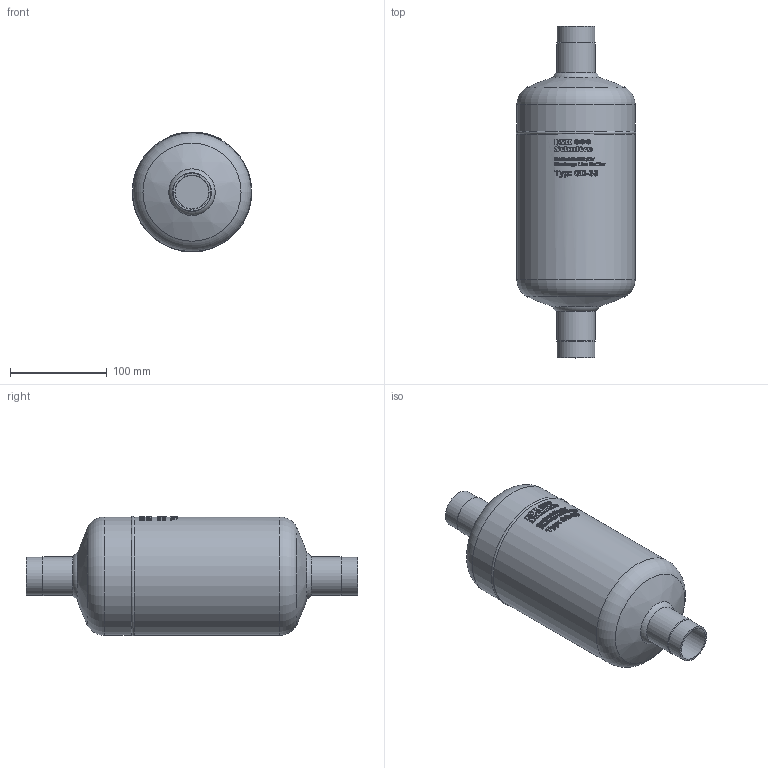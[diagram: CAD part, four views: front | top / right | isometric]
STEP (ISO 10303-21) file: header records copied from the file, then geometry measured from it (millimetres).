
FILE_DESCRIPTION(/* description */ (''),/* implementation_level */ '2;1');
FILE_NAME(/* name */ 'P:\GD\GD-35\GD-35.stp',/* time_stamp */ '2017-10-05T08:27:11+02:00',/* author */ ('neufeld'),/* organization */ (''),/* preprocessor_version */ 'ST-DEVELOPER v16.1',/* originating_system */ 'Autodesk Inventor 2016',/* authorisation */ '');
FILE_SCHEMA (('AUTOMOTIVE_DESIGN { 1 0 10303 214 3 1 1 }'));
Length unit declared in the file: millimetre
Products named in the file (2): GD-35; GD-35_1
Assembly tree (1 placements, depth 2):
  GD-35_1
    GD-35
Bounding box: 123.44 x 342.52 x 123.72 mm (x, y, z)
Volume: 2674538.4 mm3; surface area: 121382.3 mm2
Topology: 1 solids, 1 shells, 1024 faces, 2806 edges, 1868 vertices
Faces by surface type: plane 553, bspline 372, cylinder 88, torus 5, cone 4, sphere 2
Full cylindrical faces by diameter (mm): 35.2 x2, 39 x2, 40 x2, 122 x2
Entity records: 40065 total; most frequent: CARTESIAN_POINT 15966, ORIENTED_EDGE 5570, DIRECTION 4061, EDGE_CURVE 2785, VERTEX_POINT 1864, AXIS2_PLACEMENT_3D 1365, LINE 1331, VECTOR 1331
